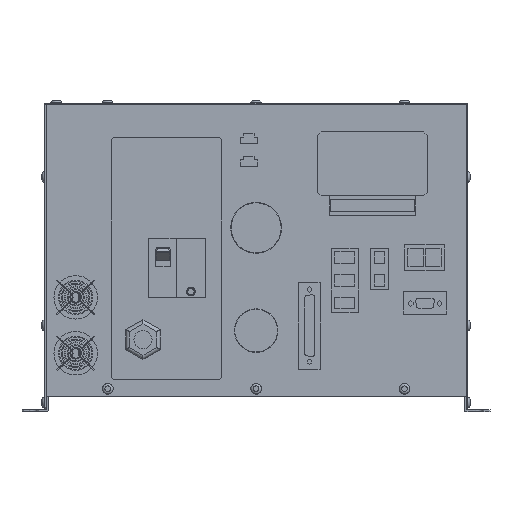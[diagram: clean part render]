
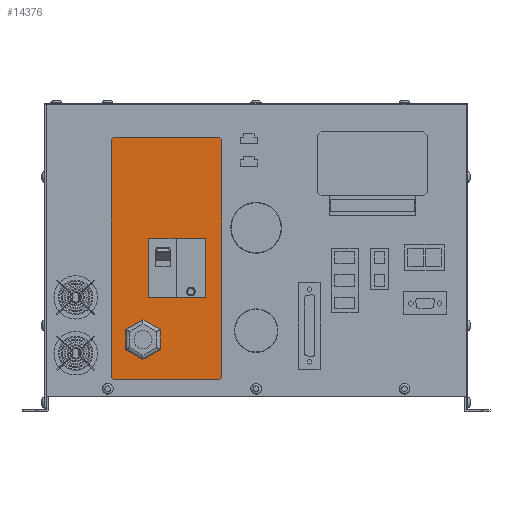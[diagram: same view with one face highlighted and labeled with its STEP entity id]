
A CAD part, left-side view. The second image highlights one B-rep face of the part: STEP entity #14376.
In plain terms, the highlighted planar face has unit normal (-1, 0, 0).
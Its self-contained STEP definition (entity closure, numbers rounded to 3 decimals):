
#685=FACE_BOUND('',#2984,.T.);
#686=FACE_BOUND('',#2985,.T.);
#1946=FACE_OUTER_BOUND('',#2983,.T.);
#2983=EDGE_LOOP('',(#12314,#12315,#12316,#12317,#12318,#12319,#12320,#12321));
#2984=EDGE_LOOP('',(#12322,#12323,#12324,#12325));
#2985=EDGE_LOOP('',(#12326,#12327,#12328,#12329,#12330,#12331));
#4216=LINE('',#23598,#5554);
#4250=LINE('',#23675,#5588);
#4252=LINE('',#23679,#5590);
#4253=LINE('',#23681,#5591);
#4254=LINE('',#23686,#5592);
#4258=LINE('',#23694,#5596);
#4261=LINE('',#23700,#5599);
#4264=LINE('',#23706,#5602);
#4267=LINE('',#23712,#5605);
#4270=LINE('',#23718,#5608);
#4273=LINE('',#23724,#5611);
#4276=LINE('',#23729,#5614);
#4278=LINE('',#23734,#5616);
#4279=LINE('',#23736,#5617);
#4280=LINE('',#23738,#5618);
#4281=LINE('',#23740,#5619);
#4282=LINE('',#23742,#5620);
#4283=LINE('',#23743,#5621);
#5554=VECTOR('',#19162,50.);
#5588=VECTOR('',#19236,52.);
#5590=VECTOR('',#19240,50.);
#5591=VECTOR('',#19243,52.);
#5592=VECTOR('',#19248,2.828);
#5596=VECTOR('',#19254,208.);
#5599=VECTOR('',#19259,2.828);
#5602=VECTOR('',#19264,93.);
#5605=VECTOR('',#19269,2.828);
#5608=VECTOR('',#19274,208.);
#5611=VECTOR('',#19279,2.828);
#5614=VECTOR('',#19284,93.);
#5616=VECTOR('',#19288,17.321);
#5617=VECTOR('',#19289,17.321);
#5618=VECTOR('',#19290,17.321);
#5619=VECTOR('',#19291,17.321);
#5620=VECTOR('',#19292,17.321);
#5621=VECTOR('',#19293,17.321);
#6886=VERTEX_POINT('',#23595);
#6887=VERTEX_POINT('',#23597);
#6910=VERTEX_POINT('',#23673);
#6911=VERTEX_POINT('',#23677);
#6912=VERTEX_POINT('',#23684);
#6913=VERTEX_POINT('',#23685);
#6916=VERTEX_POINT('',#23693);
#6918=VERTEX_POINT('',#23699);
#6920=VERTEX_POINT('',#23705);
#6922=VERTEX_POINT('',#23711);
#6924=VERTEX_POINT('',#23717);
#6926=VERTEX_POINT('',#23723);
#6928=VERTEX_POINT('',#23732);
#6929=VERTEX_POINT('',#23733);
#6930=VERTEX_POINT('',#23735);
#6931=VERTEX_POINT('',#23737);
#6932=VERTEX_POINT('',#23739);
#6933=VERTEX_POINT('',#23741);
#8700=EDGE_CURVE('',#6887,#6886,#4216,.T.);
#8738=EDGE_CURVE('',#6886,#6910,#4250,.T.);
#8740=EDGE_CURVE('',#6910,#6911,#4252,.T.);
#8741=EDGE_CURVE('',#6911,#6887,#4253,.T.);
#8742=EDGE_CURVE('',#6912,#6913,#4254,.T.);
#8746=EDGE_CURVE('',#6916,#6912,#4258,.T.);
#8749=EDGE_CURVE('',#6918,#6916,#4261,.T.);
#8752=EDGE_CURVE('',#6920,#6918,#4264,.T.);
#8755=EDGE_CURVE('',#6922,#6920,#4267,.T.);
#8758=EDGE_CURVE('',#6924,#6922,#4270,.T.);
#8761=EDGE_CURVE('',#6926,#6924,#4273,.T.);
#8764=EDGE_CURVE('',#6913,#6926,#4276,.T.);
#8766=EDGE_CURVE('',#6928,#6929,#4278,.T.);
#8767=EDGE_CURVE('',#6929,#6930,#4279,.T.);
#8768=EDGE_CURVE('',#6930,#6931,#4280,.T.);
#8769=EDGE_CURVE('',#6931,#6932,#4281,.T.);
#8770=EDGE_CURVE('',#6932,#6933,#4282,.T.);
#8771=EDGE_CURVE('',#6933,#6928,#4283,.T.);
#12314=ORIENTED_EDGE('',*,*,#8764,.F.);
#12315=ORIENTED_EDGE('',*,*,#8742,.F.);
#12316=ORIENTED_EDGE('',*,*,#8746,.F.);
#12317=ORIENTED_EDGE('',*,*,#8749,.F.);
#12318=ORIENTED_EDGE('',*,*,#8752,.F.);
#12319=ORIENTED_EDGE('',*,*,#8755,.F.);
#12320=ORIENTED_EDGE('',*,*,#8758,.F.);
#12321=ORIENTED_EDGE('',*,*,#8761,.F.);
#12322=ORIENTED_EDGE('',*,*,#8700,.T.);
#12323=ORIENTED_EDGE('',*,*,#8738,.T.);
#12324=ORIENTED_EDGE('',*,*,#8740,.T.);
#12325=ORIENTED_EDGE('',*,*,#8741,.T.);
#12326=ORIENTED_EDGE('',*,*,#8766,.T.);
#12327=ORIENTED_EDGE('',*,*,#8767,.T.);
#12328=ORIENTED_EDGE('',*,*,#8768,.T.);
#12329=ORIENTED_EDGE('',*,*,#8769,.T.);
#12330=ORIENTED_EDGE('',*,*,#8770,.T.);
#12331=ORIENTED_EDGE('',*,*,#8771,.T.);
#13608=PLANE('',#15656);
#14376=ADVANCED_FACE('',(#1946,#685,#686),#13608,.F.);
#15656=AXIS2_PLACEMENT_3D('',#23731,#19286,#19287);
#19162=DIRECTION('',(0.,-1.,0.));
#19236=DIRECTION('',(0.,0.,-1.));
#19240=DIRECTION('',(0.,1.,0.));
#19243=DIRECTION('',(0.,0.,1.));
#19248=DIRECTION('',(0.,-0.707,0.707));
#19254=DIRECTION('',(0.,0.,1.));
#19259=DIRECTION('',(0.,0.707,0.707));
#19264=DIRECTION('',(0.,1.,0.));
#19269=DIRECTION('',(0.,0.707,-0.707));
#19274=DIRECTION('',(0.,0.,-1.));
#19279=DIRECTION('',(0.,-0.707,-0.707));
#19284=DIRECTION('',(0.,-1.,0.));
#19286=DIRECTION('center_axis',(1.,0.,0.));
#19287=DIRECTION('ref_axis',(0.,0.,-1.));
#19288=DIRECTION('',(0.,0.866,-0.5));
#19289=DIRECTION('',(0.,0.866,0.5));
#19290=DIRECTION('',(0.,0.,1.));
#19291=DIRECTION('',(0.,-0.866,0.5));
#19292=DIRECTION('',(0.,-0.866,-0.5));
#19293=DIRECTION('',(0.,0.,-1.));
#23595=CARTESIAN_POINT('',(-331.5,-141.,152.));
#23597=CARTESIAN_POINT('',(-331.5,-91.,152.));
#23598=CARTESIAN_POINT('',(-331.5,-98.75,152.));
#23673=CARTESIAN_POINT('',(-331.5,-141.,100.));
#23675=CARTESIAN_POINT('',(-331.5,-141.,143.));
#23677=CARTESIAN_POINT('',(-331.5,-91.,100.));
#23679=CARTESIAN_POINT('',(-331.5,-123.75,100.));
#23681=CARTESIAN_POINT('',(-331.5,-91.,117.));
#23684=CARTESIAN_POINT('',(-331.5,-58.,238.));
#23685=CARTESIAN_POINT('',(-331.5,-60.,240.));
#23686=CARTESIAN_POINT('',(-331.5,-58.,238.));
#23693=CARTESIAN_POINT('',(-331.5,-58.,30.));
#23694=CARTESIAN_POINT('',(-331.5,-58.,30.));
#23699=CARTESIAN_POINT('',(-331.5,-60.,28.));
#23700=CARTESIAN_POINT('',(-331.5,-60.,28.));
#23705=CARTESIAN_POINT('',(-331.5,-153.,28.));
#23706=CARTESIAN_POINT('',(-331.5,-153.,28.));
#23711=CARTESIAN_POINT('',(-331.5,-155.,30.));
#23712=CARTESIAN_POINT('',(-331.5,-155.,30.));
#23717=CARTESIAN_POINT('',(-331.5,-155.,238.));
#23718=CARTESIAN_POINT('',(-331.5,-155.,238.));
#23723=CARTESIAN_POINT('',(-331.5,-153.,240.));
#23724=CARTESIAN_POINT('',(-331.5,-153.,240.));
#23729=CARTESIAN_POINT('',(-331.5,-60.,240.));
#23731=CARTESIAN_POINT('Origin',(-331.5,-106.5,134.));
#23732=CARTESIAN_POINT('',(-331.5,-101.,54.34));
#23733=CARTESIAN_POINT('',(-331.5,-86.,45.679));
#23734=CARTESIAN_POINT('',(-331.5,-120.309,65.488));
#23735=CARTESIAN_POINT('',(-331.5,-71.,54.34));
#23736=CARTESIAN_POINT('',(-331.5,-74.566,52.281));
#23737=CARTESIAN_POINT('',(-331.5,-71.,71.66));
#23738=CARTESIAN_POINT('',(-331.5,-71.,94.17));
#23739=CARTESIAN_POINT('',(-331.5,-86.,80.321));
#23740=CARTESIAN_POINT('',(-331.5,-97.809,87.139));
#23741=CARTESIAN_POINT('',(-331.5,-101.,71.66));
#23742=CARTESIAN_POINT('',(-331.5,-82.066,82.592));
#23743=CARTESIAN_POINT('',(-331.5,-101.,102.83));
